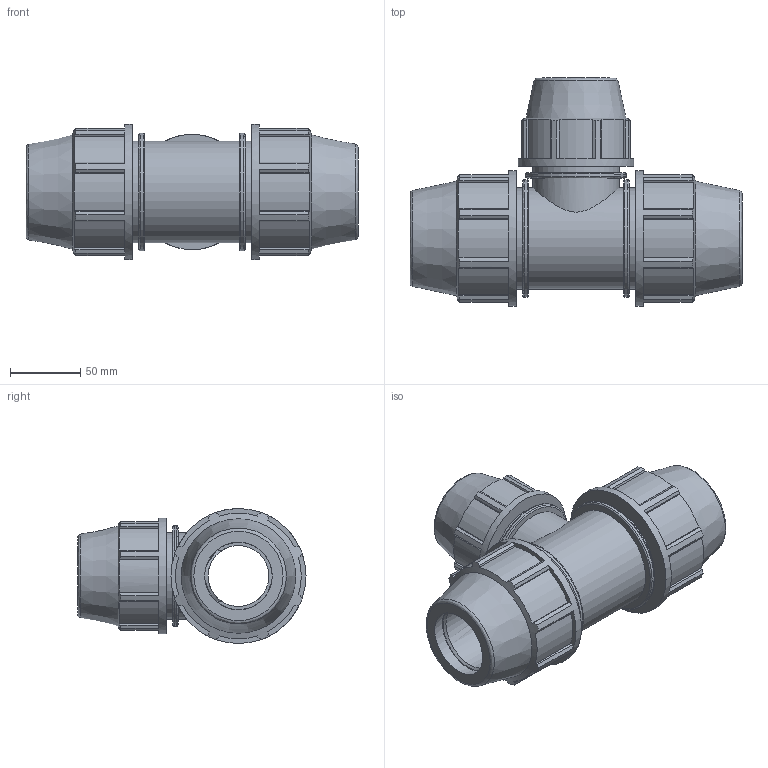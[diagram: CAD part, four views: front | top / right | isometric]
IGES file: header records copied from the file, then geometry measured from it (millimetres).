
Global section: file name: 0734M0015013.ipt; native system: Autodesk Inventor 2019; preprocessor: unknown; author: 12HКирилл; date: 20210826.124806; units: inch
Bounding box: 235.97 x 162.05 x 96.01 mm (x, y, z)
Volume: 973484.8 mm3; surface area: 151400.5 mm2
Topology: 1 solids, 1 shells, 201 faces, 575 edges, 388 vertices
Faces by surface type: plane 138, cylinder 37, revolution 20, cone 6
Full cylindrical faces by diameter (mm): 61.531 x2, 71.377 x1, 72.009 x3, 82.042 x1, 83.53 x2, 96.012 x2
